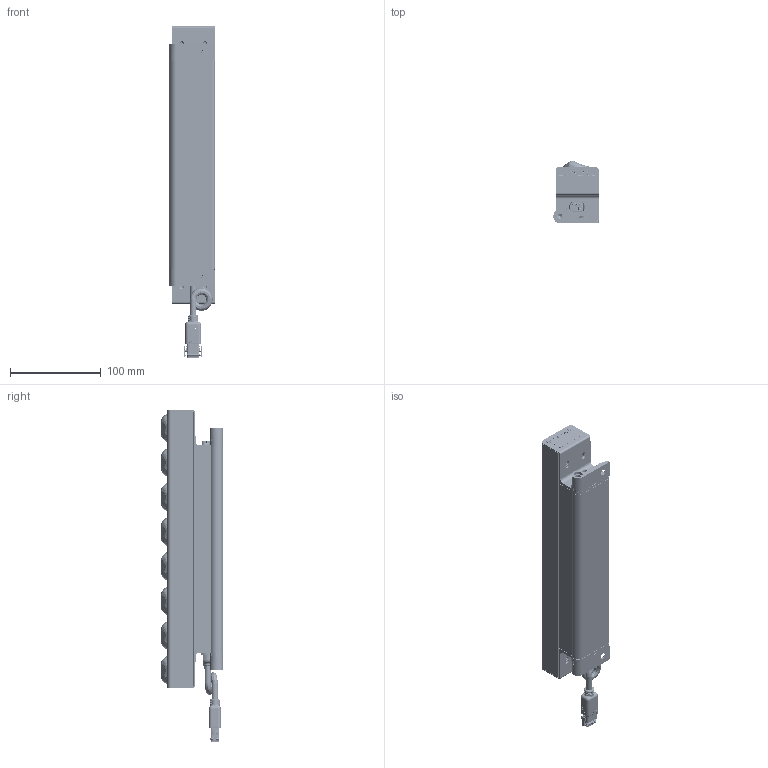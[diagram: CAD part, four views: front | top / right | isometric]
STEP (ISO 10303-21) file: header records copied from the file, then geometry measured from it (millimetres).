
FILE_DESCRIPTION (( 'STEP AP214' ), '1' );
FILE_NAME ('L60 ASYM lens 3D model.STEP', '2023-08-14T20:50:27', ( '' ), ( '' ), 'SwSTEP 2.0', 'SolidWorks 2022', '' );
FILE_SCHEMA (( 'AUTOMOTIVE_DESIGN' ));
Length unit declared in the file: millimetre
Products named in the file (211): HSG-000492-00; VFDFN10_EP_XIC-000127-00-1; ECAP_P=7.5_D=16.5_H=27_HORIZ_TH_CAP-000518-00-1; GSK-000113-00; HSG-000490-00_L65; RES0603_RES-000061-00-10; CVR-000790-XX_L65; SCW-000156-00_92005A116; IND_WURTH_744748471_MAG-000092-00-1; Cable^Cable_2-ACB-000254-00; CAP0603_CAP-000017-00-1; CMC_IRIS_MOD1_New_CMC_SMD_variations-1; SOD-123FL_DIO-000149-00-1; Iris_L60_1FT_RevB_BOARD; RES0603_RES-000154-00-10; CMC_BOURNS_SRF0504_MAG-000067-00-1; RES0603_RES-000054-00-10; CONN_SAM_3P_2.54MM_VERT_CON-000220-00-1; RES0603_RES-001304-00-1; Hybrid_Atlas_RevE_BOARD; POWERMITE3_DIO-000298-00-1; RES0603_RES-000085-00-3; TO277A_DIO-000297-00-1; CONN_M50-3130545_HARWIN_CON-000136-00-1; CAP1206_CAP-000529-00-1; SRN6028_MAG-000017-00-1; Iris_L60_1FT_RevB; CAP0603_CAP-000019-00-7; OPTO_TLP185_OPT-000021-01-1; SMB_DIO-000275-00-1; RES0603_RES-000953-00-10; PTS810_SWH-000002-00-1; SMF_DIO-000286-00-1; RES0402_RES-000752-00-1; SCW-000483-00_92010A014; CAP0603_CAP-000234-00-1; SOT323_BJT_TRA-000107-00-1; RES1206_RES-000184-00-1; ACB-000271-00_SR1-LOCKED; CAP0603_CAP-000133-00-1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
Assembly tree (421 placements, depth 5):
  L60 ASYM lens 3D model
    BAS-000020-00
    ASY-100006-00_SR1-LOCKED
      HSG-000488-00_175
      ACB-000271-00_SR1-LOCKED
        SR1
        TROV2 Panel Connector
        Cable Connection
        Cable_2-ACB-000254-00
          Cable^Cable_2-ACB-000254-00
      SCW-000509-00_98070A892  x2
    HSG-000490-00_L65
    ASY-006793-XX  x2
      HLD-000099-00
      OPC-000157-00_Static 5D_LL01EC-EJK05L06 (W0938)_20210619_Rev 1
    SCW-000574-00_SCW-000574-00
    HSG-000492-00
    SCW-000483-00_92010A014  x4
    TMP-000027-00
    SHT-000042-00
    SCW-000156-00_92005A116  x2
    Hybrid_Atlas_RevE
      Hybrid_Atlas_RevE_BOARD
      SMB_DIO-000311-00-1  x4
      FCAP_P=7.5_W=4_H=8_L=10_TH_CMP-02414-1
      CAP_F=7.5_D=7.5_T=5_CAP-000545-00-1  x4
      FCAP_P=15_W=8_H=14_L=18_CAP-000213-00-1
      RES_AXIAL_1_4W_2.6x6.3mm_0.6mmD_RES-001339-00-1  x3
      SMB_DIO-000309-00-1
      IND_TBP6U255-00_MAG-000114-00-1
      ECAP_P=7.5_D=16.5_H=27_HORIZ_TH_CAP-000518-00-1
      CAP1808_CAP-000532-00-1
      RES0603_RES-000155-00-3  x2
      CAP1206_CAP-000529-00-1  x2
      CAP1206_CAP-000543-00-1  x3
      RES0603_RES-000153-00-3  x7
      RES0603_RES-000805-00-3
      TH-KEYSTONE-4887_ESP-000001-00-1  x2
      FCAP_P=15_W=7_H=12.5_L=18_CAP-000285-00-1
      SOT223-3_TRA-000117-00-1
      DB_SMC_KBP_DIO-000279-00-1
      RES0603_RES-000809-00-3  x6
      OPTO_TLP185_OPT-000021-00-1  x2
      SOIC-8_EP_XIC-000180-00-1
      RES1206_RES-001324-00-1
      RES1206_RES-001323-00-1  x3
      RES0603_RES-000061-00-3  x3
      RES0603_RES-000085-00-3
      RES0603_RES-001322-00-3
      RES0603_RES-001332-00-3
      RES0603_RES-000092-00-3  x3
      RES0603_RES-001310-00-3  x2
      RES0603_RES-001316-00-3  x2
      RES0603_RES-000074-00-3
      CONN_SAM_4P_2.54MM_VERT_CON-000243-00-1
      CONN-4_2.5MM_SINBON_CON-000221-00-1  x2
      SMF_DIO-000286-00-1  x4
      CAP0603_CAP-000519-00-1  x2
      CAP0603_CAP-000502-00-1
      CAP0603_CAP-000152-00-1  x5
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Bounding box: 50 x 68.2 x 365.38 mm (x, y, z)
Volume: 463885.2 mm3; surface area: 476459.1 mm2
Topology: 484 solids, 2352 shells, 21694 faces, 60482 edges, 41639 vertices
Faces by surface type: plane 12430, cylinder 5269, bspline 2042, cone 752, sphere 692, torus 509
Entity records: 778189 total; most frequent: CARTESIAN_POINT 276043, ORIENTED_EDGE 80847, DIRECTION 73197, EDGE_CURVE 45018, VERTEX_POINT 32032, LINE 27731, VECTOR 27731, AXIS2_PLACEMENT_3D 22733
